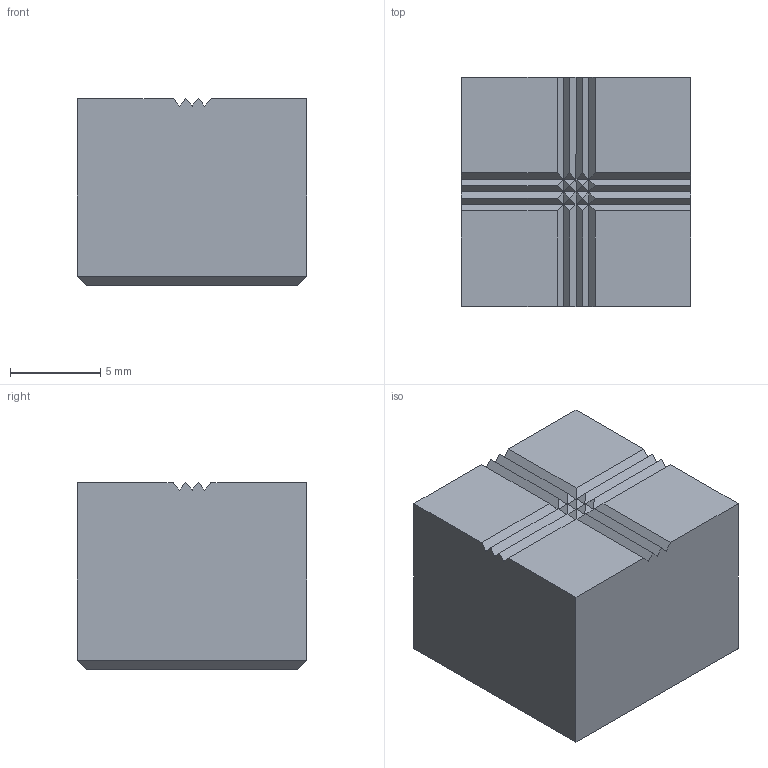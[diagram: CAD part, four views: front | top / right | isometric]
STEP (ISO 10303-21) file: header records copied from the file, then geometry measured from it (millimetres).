
FILE_DESCRIPTION((''),'2;1');
FILE_NAME('3532W003.stp','2001-04-09T10:39:55',(''),(''),'AutoCAD STEP 2000i','AutoCAD 2000i',', , ');
FILE_SCHEMA(('CONFIG_CONTROL_DESIGN'));
Length unit declared in the file: millimetre
Products named in the file (2): 3532C-MDTA; 3532C-MDT
Assembly tree (1 placements, depth 2):
  3532C-MDTA
    3532C-MDT
Bounding box: 12.7 x 12.7 x 10.32 mm (x, y, z)
Volume: 1648.2 mm3; surface area: 855.2 mm2
Topology: 1 solids, 1 shells, 61 faces, 124 edges, 65 vertices
Faces by surface type: plane 61
Entity records: 1603 total; most frequent: CARTESIAN_POINT 252, DIRECTION 250, ORIENTED_EDGE 248, VECTOR 124, LINE 124, EDGE_CURVE 124, VERTEX_POINT 65, AXIS2_PLACEMENT_3D 63
